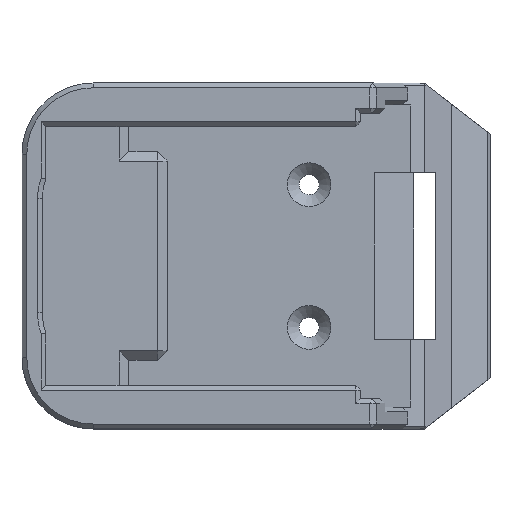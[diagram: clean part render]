
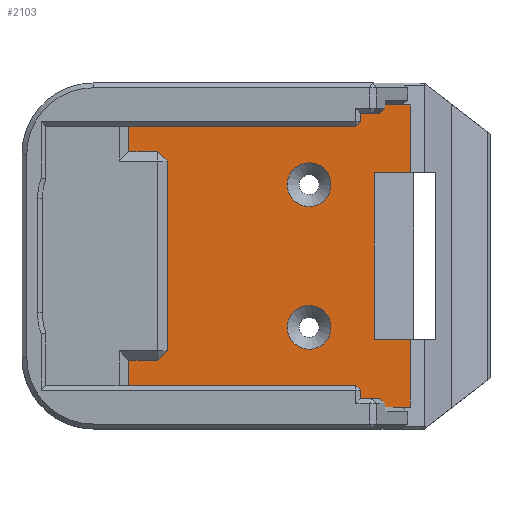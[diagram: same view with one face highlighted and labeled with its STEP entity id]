
A CAD part, top view. The second image highlights one B-rep face of the part: STEP entity #2103.
In plain terms, the highlighted planar face has unit normal (0, 0, 1).
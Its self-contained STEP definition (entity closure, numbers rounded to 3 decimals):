
#48=FACE_BOUND('',#228,.T.);
#49=FACE_BOUND('',#229,.T.);
#58=CIRCLE('',#2252,4.6);
#59=CIRCLE('',#2253,4.6);
#99=FACE_OUTER_BOUND('',#227,.T.);
#227=EDGE_LOOP('',(#1483,#1484,#1485,#1486,#1487,#1488,#1489,#1490,#1491,
#1492,#1493,#1494,#1495,#1496));
#228=EDGE_LOOP('',(#1497));
#229=EDGE_LOOP('',(#1498));
#357=LINE('',#3027,#629);
#387=LINE('',#3098,#659);
#395=LINE('',#3114,#667);
#405=LINE('',#3133,#677);
#411=LINE('',#3145,#683);
#412=LINE('',#3147,#684);
#413=LINE('',#3149,#685);
#414=LINE('',#3151,#686);
#415=LINE('',#3153,#687);
#416=LINE('',#3155,#688);
#417=LINE('',#3157,#689);
#418=LINE('',#3159,#690);
#419=LINE('',#3160,#691);
#420=LINE('',#3161,#692);
#629=VECTOR('',#2428,10.);
#659=VECTOR('',#2486,10.);
#667=VECTOR('',#2498,10.);
#677=VECTOR('',#2512,10.);
#683=VECTOR('',#2520,10.);
#684=VECTOR('',#2521,10.);
#685=VECTOR('',#2522,10.);
#686=VECTOR('',#2523,10.);
#687=VECTOR('',#2524,10.);
#688=VECTOR('',#2525,10.);
#689=VECTOR('',#2526,10.);
#690=VECTOR('',#2527,10.);
#691=VECTOR('',#2528,10.);
#692=VECTOR('',#2529,10.);
#899=VERTEX_POINT('',#3024);
#900=VERTEX_POINT('',#3026);
#926=VERTEX_POINT('',#3095);
#927=VERTEX_POINT('',#3097);
#933=VERTEX_POINT('',#3113);
#940=VERTEX_POINT('',#3132);
#945=VERTEX_POINT('',#3144);
#946=VERTEX_POINT('',#3146);
#947=VERTEX_POINT('',#3148);
#948=VERTEX_POINT('',#3150);
#949=VERTEX_POINT('',#3152);
#950=VERTEX_POINT('',#3154);
#951=VERTEX_POINT('',#3156);
#952=VERTEX_POINT('',#3158);
#953=VERTEX_POINT('',#3162);
#954=VERTEX_POINT('',#3164);
#1087=EDGE_CURVE('',#899,#900,#357,.T.);
#1121=EDGE_CURVE('',#926,#927,#387,.T.);
#1129=EDGE_CURVE('',#933,#900,#395,.T.);
#1139=EDGE_CURVE('',#933,#940,#405,.T.);
#1145=EDGE_CURVE('',#899,#945,#411,.T.);
#1146=EDGE_CURVE('',#946,#945,#412,.T.);
#1147=EDGE_CURVE('',#947,#946,#413,.T.);
#1148=EDGE_CURVE('',#948,#947,#414,.T.);
#1149=EDGE_CURVE('',#949,#948,#415,.T.);
#1150=EDGE_CURVE('',#950,#949,#416,.F.);
#1151=EDGE_CURVE('',#951,#950,#417,.T.);
#1152=EDGE_CURVE('',#952,#951,#418,.F.);
#1153=EDGE_CURVE('',#927,#952,#419,.T.);
#1154=EDGE_CURVE('',#940,#926,#420,.T.);
#1155=EDGE_CURVE('',#953,#953,#58,.T.);
#1156=EDGE_CURVE('',#954,#954,#59,.T.);
#1483=ORIENTED_EDGE('',*,*,#1129,.T.);
#1484=ORIENTED_EDGE('',*,*,#1087,.F.);
#1485=ORIENTED_EDGE('',*,*,#1145,.T.);
#1486=ORIENTED_EDGE('',*,*,#1146,.F.);
#1487=ORIENTED_EDGE('',*,*,#1147,.F.);
#1488=ORIENTED_EDGE('',*,*,#1148,.F.);
#1489=ORIENTED_EDGE('',*,*,#1149,.F.);
#1490=ORIENTED_EDGE('',*,*,#1150,.F.);
#1491=ORIENTED_EDGE('',*,*,#1151,.F.);
#1492=ORIENTED_EDGE('',*,*,#1152,.F.);
#1493=ORIENTED_EDGE('',*,*,#1153,.F.);
#1494=ORIENTED_EDGE('',*,*,#1121,.F.);
#1495=ORIENTED_EDGE('',*,*,#1154,.F.);
#1496=ORIENTED_EDGE('',*,*,#1139,.F.);
#1497=ORIENTED_EDGE('',*,*,#1155,.F.);
#1498=ORIENTED_EDGE('',*,*,#1156,.F.);
#1994=PLANE('',#2251);
#2103=ADVANCED_FACE('',(#99,#48,#49),#1994,.F.);
#2251=AXIS2_PLACEMENT_3D('',#3143,#2518,#2519);
#2252=AXIS2_PLACEMENT_3D('',#3163,#2530,#2531);
#2253=AXIS2_PLACEMENT_3D('',#3165,#2532,#2533);
#2428=DIRECTION('',(0.,-1.,0.));
#2486=DIRECTION('',(0.,1.,0.));
#2498=DIRECTION('',(-1.,0.,0.));
#2512=DIRECTION('',(0.,-1.,0.));
#2518=DIRECTION('center_axis',(0.,0.,-1.));
#2519=DIRECTION('ref_axis',(-1.,0.,0.));
#2520=DIRECTION('',(1.,0.,0.));
#2521=DIRECTION('',(0.,-1.,0.));
#2522=DIRECTION('',(1.,0.,0.));
#2523=DIRECTION('',(0.,1.,0.));
#2524=DIRECTION('',(-1.,0.,0.));
#2525=DIRECTION('',(0.707,-0.707,0.));
#2526=DIRECTION('',(0.,1.,0.));
#2527=DIRECTION('',(-0.707,-0.707,0.));
#2528=DIRECTION('',(1.,0.,0.));
#2529=DIRECTION('',(-1.,0.,0.));
#2530=DIRECTION('center_axis',(0.,0.,1.));
#2531=DIRECTION('ref_axis',(-1.,0.,0.));
#2532=DIRECTION('center_axis',(0.,0.,1.));
#2533=DIRECTION('ref_axis',(-1.,0.,0.));
#3024=CARTESIAN_POINT('',(23.729,17.5,-0.2));
#3026=CARTESIAN_POINT('',(23.729,-17.5,-0.2));
#3027=CARTESIAN_POINT('',(23.729,-12.75,-0.2));
#3095=CARTESIAN_POINT('',(-27.9,-31.75,-0.2));
#3097=CARTESIAN_POINT('',(-27.9,-21.95,-0.2));
#3098=CARTESIAN_POINT('',(-27.9,-13.325,-0.2));
#3113=CARTESIAN_POINT('',(31.298,-17.5,-0.2));
#3114=CARTESIAN_POINT('',(16.15,-17.5,-0.2));
#3132=CARTESIAN_POINT('',(31.298,-31.75,-0.2));
#3133=CARTESIAN_POINT('',(31.298,-14.288,-0.2));
#3143=CARTESIAN_POINT('Origin',(-4.15,0.,-0.2));
#3144=CARTESIAN_POINT('',(31.298,17.5,-0.2));
#3145=CARTESIAN_POINT('',(9.65,17.5,-0.2));
#3146=CARTESIAN_POINT('',(31.298,31.75,-0.2));
#3147=CARTESIAN_POINT('',(31.298,26.588,-0.2));
#3148=CARTESIAN_POINT('',(-27.9,31.75,-0.2));
#3149=CARTESIAN_POINT('',(30.752,31.75,-0.2));
#3150=CARTESIAN_POINT('',(-27.9,21.95,-0.2));
#3151=CARTESIAN_POINT('',(-27.9,31.35,-0.2));
#3152=CARTESIAN_POINT('',(-21.85,21.95,-0.2));
#3153=CARTESIAN_POINT('',(-19.85,21.95,-0.2));
#3154=CARTESIAN_POINT('',(-19.85,19.95,-0.2));
#3155=CARTESIAN_POINT('',(-11.438,11.538,-0.2));
#3156=CARTESIAN_POINT('',(-19.85,-19.95,-0.2));
#3157=CARTESIAN_POINT('',(-19.85,11.292,-0.2));
#3158=CARTESIAN_POINT('',(-21.85,-21.95,-0.2));
#3159=CARTESIAN_POINT('',(-11.438,-11.538,-0.2));
#3160=CARTESIAN_POINT('',(-12.,-21.95,-0.2));
#3161=CARTESIAN_POINT('',(42.05,-31.75,-0.2));
#3162=CARTESIAN_POINT('',(14.6,15.,-0.2));
#3163=CARTESIAN_POINT('Origin',(10.,15.,-0.2));
#3164=CARTESIAN_POINT('',(14.6,-15.,-0.2));
#3165=CARTESIAN_POINT('Origin',(10.,-15.,-0.2));
